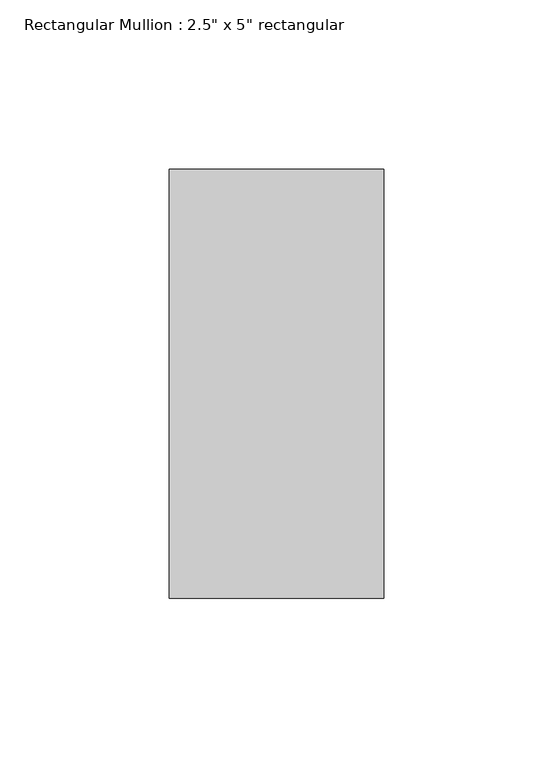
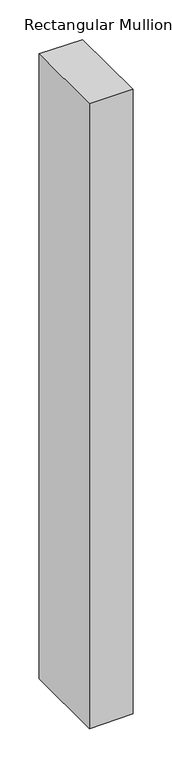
"""IFC4 building model written with IfcOpenShell, lengths in millimetres: member geometry."""

from ifc_helpers import new_model, si_unit, frame, origin, place, context, project, spatial, polyline, outline, extrude, source, transform, mapped, element, save


def member_c98aac82(model_context):
    return source(origin(), model_context, "Body", "SweptSolid", [
        extrude(outline(polyline([(0.0, 0.0), (0.1577189, -63.5), (-966.2334903, -63.5), (-965.5969742, 0.0), (0.0, 0.0)])), frame((0.0, -63.5, 0.0), z_axis=(0.0, 1.0, 0.0), x_axis=(0.0, 0.0, 1.0)), (0.0, 0.0, 1.0), 127.0),
    ])


if __name__ == "__main__":
    model = new_model("IFC4")
    model_context = context("Model", 3, world=origin())
    ifc_project = project(units=[si_unit("LENGTHUNIT", "METRE", prefix="MILLI")], contexts=[model_context])
    site = spatial("IfcSite", under=ifc_project)
    building = spatial("IfcBuilding", under=site)
    placement = place(None, origin())
    member_shape = member_c98aac82(model_context)
    element("IfcMember", 1, ObjectType="Rectangular Mullion : 2.5\" x 5\" rectangular", at=placement, inside=building, context=model_context, shape_type="MappedRepresentation", body=[
        mapped(member_shape, transform((0.0, 0.0, 0.0), x_axis=(1.0, 0.0, 0.0), y_axis=(0.0, 1.0, 0.0), z_axis=(0.0, 0.0, 1.0))),
    ])
    save(model, "model.ifc")
